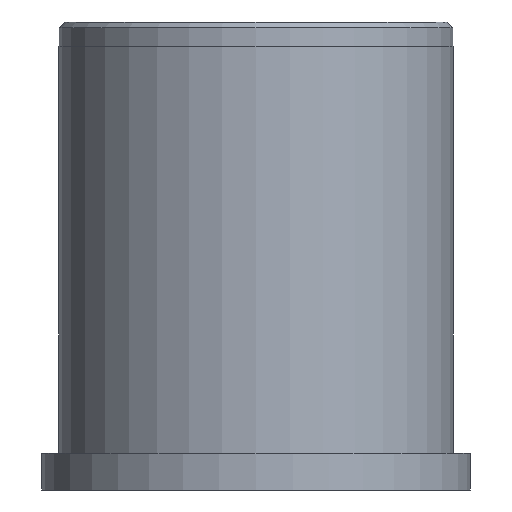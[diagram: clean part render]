
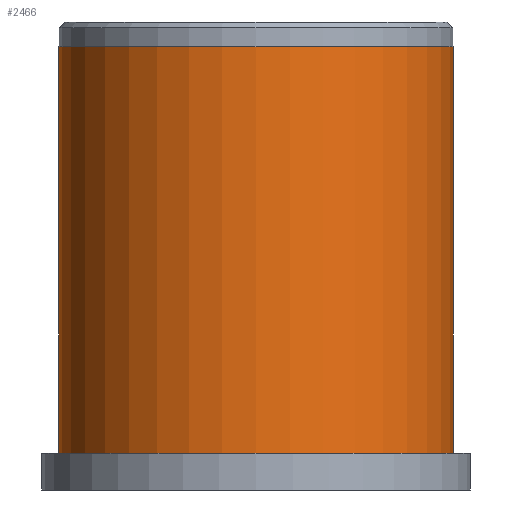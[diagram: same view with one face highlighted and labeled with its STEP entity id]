
A CAD part, front view. The second image highlights one B-rep face of the part: STEP entity #2466.
In plain terms, the highlighted cylindrical face has radius 25.406 mm (diameter 50.813 mm), a full revolution.
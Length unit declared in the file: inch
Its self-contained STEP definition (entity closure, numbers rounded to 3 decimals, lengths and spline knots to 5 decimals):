
#246 = FACE_OUTER_BOUND ( 'NONE', #1071, .T. ) ;
#268 = VERTEX_POINT ( 'NONE', #1526 ) ;
#463 = DIRECTION ( 'NONE',  ( -1., 0., 0. ) ) ;
#665 = DIRECTION ( 'NONE',  ( 0., 0., -1. ) ) ;
#712 = EDGE_CURVE ( 'NONE', #268, #268, #2213, .T. ) ;
#1071 = EDGE_LOOP ( 'NONE', ( #1446 ) ) ;
#1123 = VERTEX_POINT ( 'NONE', #3412 ) ;
#1270 = CARTESIAN_POINT ( 'NONE',  ( 0., 0., 0. ) ) ;
#1326 = EDGE_LOOP ( 'NONE', ( #2972 ) ) ;
#1398 = CARTESIAN_POINT ( 'NONE',  ( 0., 0., 2.25 ) ) ;
#1446 = ORIENTED_EDGE ( 'NONE', *, *, #2966, .F. ) ;
#1526 = CARTESIAN_POINT ( 'NONE',  ( -1.00025, 0., 2.25 ) ) ;
#1857 = AXIS2_PLACEMENT_3D ( 'NONE', #1270, #2117, #463 ) ;
#1890 = AXIS2_PLACEMENT_3D ( 'NONE', #1398, #2215, #2469 ) ;
#2117 = DIRECTION ( 'NONE',  ( 0., 0., -1. ) ) ;
#2213 = CIRCLE ( 'NONE', #1890, 1.00025 ) ;
#2215 = DIRECTION ( 'NONE',  ( 0., 0., -1. ) ) ;
#2319 = CARTESIAN_POINT ( 'NONE',  ( 0., 0., 0.187 ) ) ;
#2455 = CYLINDRICAL_SURFACE ( 'NONE', #1857, 1.00025 ) ;
#2466 = ADVANCED_FACE ( 'NONE', ( #246, #3218 ), #2455, .T. ) ;
#2469 = DIRECTION ( 'NONE',  ( -1., 0., 0. ) ) ;
#2702 = AXIS2_PLACEMENT_3D ( 'NONE', #2319, #665, #3090 ) ;
#2889 = CIRCLE ( 'NONE', #2702, 1.00025 ) ;
#2966 = EDGE_CURVE ( 'NONE', #1123, #1123, #2889, .T. ) ;
#2972 = ORIENTED_EDGE ( 'NONE', *, *, #712, .T. ) ;
#3090 = DIRECTION ( 'NONE',  ( -1., 0., 0. ) ) ;
#3218 = FACE_OUTER_BOUND ( 'NONE', #1326, .T. ) ;
#3412 = CARTESIAN_POINT ( 'NONE',  ( -1.00025, 0., 0.187 ) ) ;
